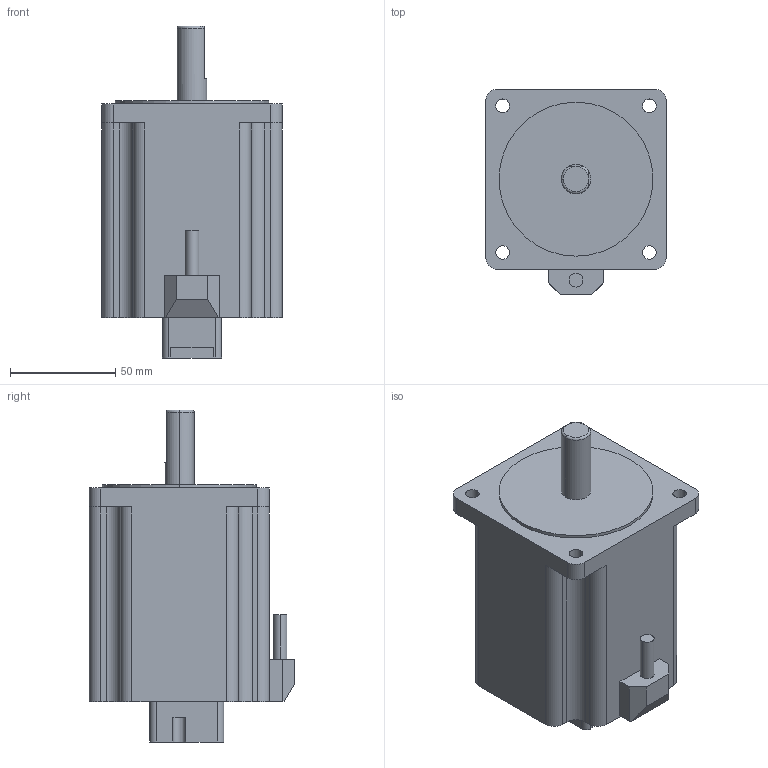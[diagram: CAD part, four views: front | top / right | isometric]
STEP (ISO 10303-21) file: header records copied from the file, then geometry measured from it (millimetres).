
FILE_DESCRIPTION (( 'STEP AP203' ), '1' );
FILE_NAME ('P-PMSA-U86D3HE-NL_3D.STEP', '2020-02-06T05:26:34', ( '' ), ( '' ), 'SwSTEP 2.0', 'SolidWorks 2018', '' );
FILE_SCHEMA (( 'CONFIG_CONTROL_DESIGN' ));
Length unit declared in the file: millimetre
Products named in the file (1): P-PMSA-U86D3HE-NL_3D
Bounding box: 85.5 x 97.5 x 157.5 mm (x, y, z)
Volume: 693512.2 mm3; surface area: 52619.4 mm2
Topology: 1 solids, 1 shells, 88 faces, 240 edges, 159 vertices
Faces by surface type: plane 48, cylinder 37, torus 3
Entity records: 2945 total; most frequent: CARTESIAN_POINT 546, DIRECTION 496, ORIENTED_EDGE 480, EDGE_CURVE 240, AXIS2_PLACEMENT_3D 171, VERTEX_POINT 159, VECTOR 154, LINE 154
